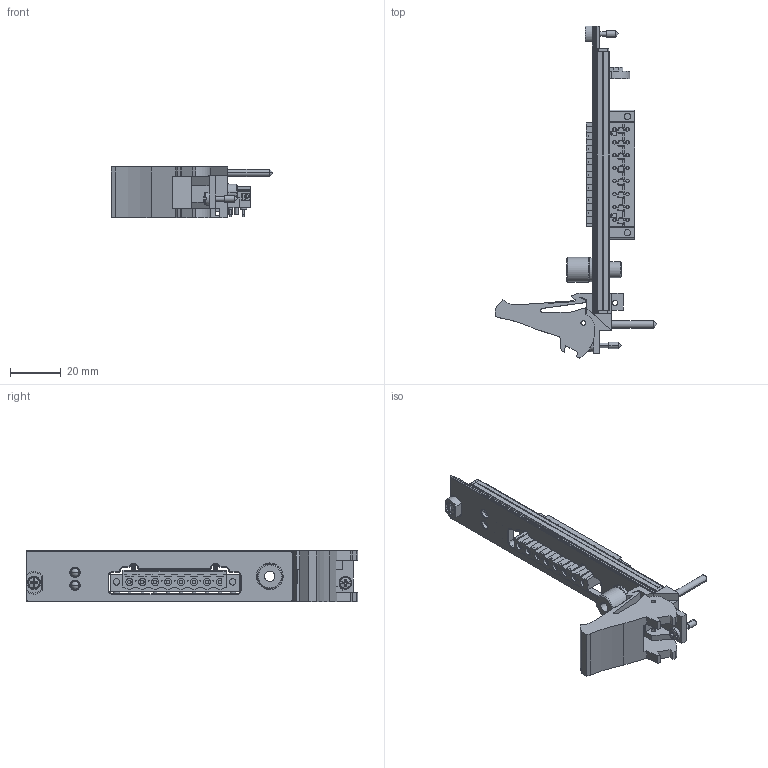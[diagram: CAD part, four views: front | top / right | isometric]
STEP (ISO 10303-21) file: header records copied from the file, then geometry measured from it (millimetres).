
FILE_DESCRIPTION((''),'2;1');
FILE_NAME('CU_PXI-4132','2009-12-28T',('jjorden'),(''),'PRO/ENGINEER BY PARAMETRIC TECHNOLOGY CORPORATION, 2006080','PRO/ENGINEER BY PARAMETRIC TECHNOLOGY CORPORATION, 2006080','');
FILE_SCHEMA(('CONFIG_CONTROL_DESIGN'));
Length unit declared in the file: inch
Products named in the file (1): CU_PXI-4132
Bounding box: 63.53 x 130.5 x 20.31 mm (x, y, z)
Volume: 21108 mm3; surface area: 19381.4 mm2
Topology: 4 solids, 4 shells, 1622 faces, 4028 edges, 2436 vertices
Faces by surface type: plane 1255, cylinder 297, cone 50, sphere 16, torus 4
Entity records: 48687 total; most frequent: CARTESIAN_POINT 10429, ORIENTED_EDGE 8032, DIRECTION 7733, EDGE_CURVE 4016, VECTOR 2713, LINE 2713, AXIS2_PLACEMENT_3D 2510, VERTEX_POINT 2436
